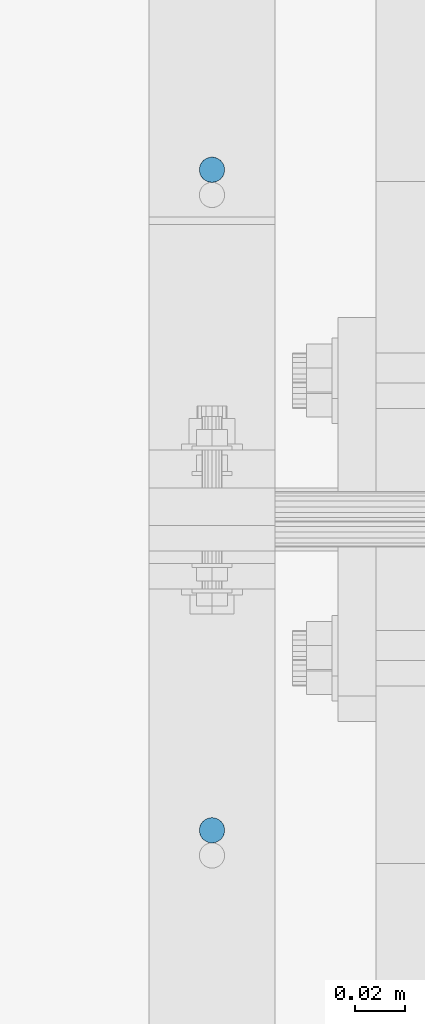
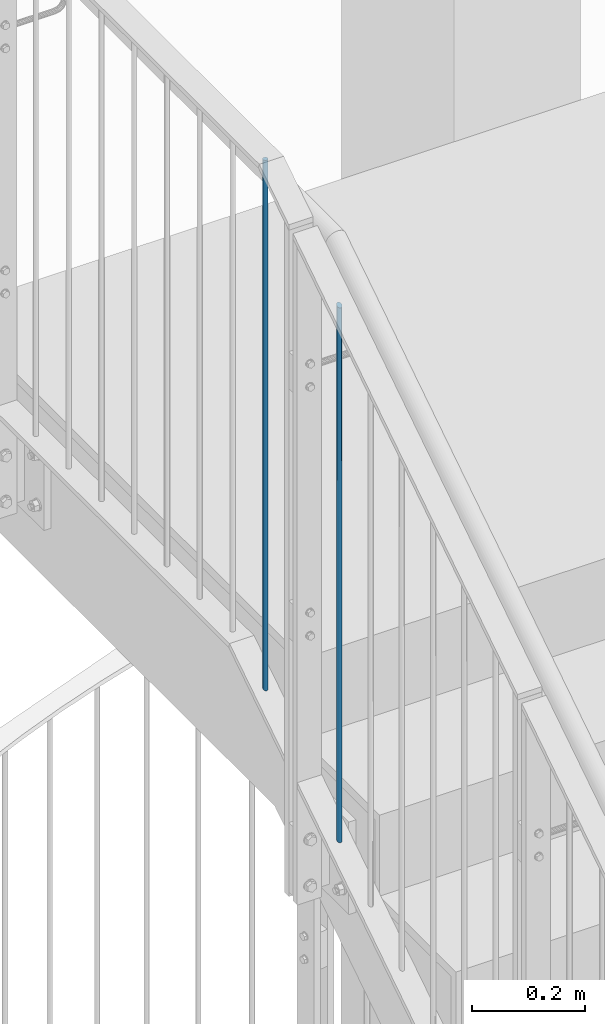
# One storey, part 19 of 296: 2 columns.
"""IFC2X3 building model written with IfcOpenShell, lengths in millimetres."""

import ifcopenshell
import ifcopenshell.guid

model = None  # the IFC model being written
_history = None  # IfcOwnerHistory: only IFC2X3 demands one
_inside = {}  # id of a spatial element -> (the spatial element, [elements in it])
_under = {}  # id of a project, library or spatial element -> (it, [spatial elements below it])
_declared = {}  # id of a project -> (the project, [libraries it declares])
_typed = {}  # id of a type object -> (the type object, [elements of that type])
_made_of = {}  # id of a material, layer set ... -> (it, [elements and type objects made of it])


def new_model(schema):
    """Start an empty IFC model of exactly this schema.

    Asked for "IFC4X3", IfcOpenShell would pick the latest addendum, in which some entities
    have other attributes; the version numbers below select the first issue.
    IFC2X3 requires an IfcOwnerHistory on every rooted entity: one is made here for all.
    """
    global model, _history
    if schema == "IFC4X3":
        model = ifcopenshell.file(schema_version=(4, 3, 0, 0))
    else:
        model = ifcopenshell.file(schema=schema)
    _inside.clear()
    _under.clear()
    _declared.clear()
    _typed.clear()
    _made_of.clear()
    _history = None
    if model.schema == "IFC2X3":
        org = make("IfcOrganization", Name="unknown")
        user = make(
            "IfcPersonAndOrganization",
            ThePerson=make("IfcPerson", FamilyName="unknown"),
            TheOrganization=org,
        )
        app = make(
            "IfcApplication",
            ApplicationDeveloper=org,
            Version="unknown",
            ApplicationFullName="unknown",
            ApplicationIdentifier="unknown",
        )
        _history = make(
            "IfcOwnerHistory",
            OwningUser=user,
            OwningApplication=app,
            ChangeAction="ADDED",
            CreationDate=0,
        )
    return model


def make(cls, **values):
    """One entity of the class cls with the attributes given. An attribute that is None is left unset."""
    return model.create_entity(
        cls, **{name: value for name, value in values.items() if value is not None}
    )


def entity(cls, *values):
    """Any entity or typed value of the class cls, its attributes in the order of the schema. None: left unset."""
    e = model.create_entity(cls)
    for i, value in enumerate(values):
        if value is not None:
            e[i] = value
    return e


def rooted(cls, **values):
    """An entity with a GlobalId (a new one), such as an element, a storey or a relation."""
    return make(cls, GlobalId=ifcopenshell.guid.new(), OwnerHistory=_history, **values)


def si_unit(unit_type, name, prefix=None):
    """IfcSIUnit, for example si_unit("LENGTHUNIT", "METRE", prefix="MILLI")."""
    return make("IfcSIUnit", UnitType=unit_type, Prefix=prefix, Name=name)


def converted_unit(unit_type, name, factor, base, dimensions=None, offset=None):
    """IfcConversionBasedUnit, such as the inch: factor (a typed value) times the base unit."""
    return make(
        "IfcConversionBasedUnit"
        if offset is None
        else "IfcConversionBasedUnitWithOffset",
        ConversionOffset=offset,
        Dimensions=None
        if dimensions is None
        else entity("IfcDimensionalExponents", *dimensions),
        UnitType=unit_type,
        Name=name,
        ConversionFactor=make(
            "IfcMeasureWithUnit", ValueComponent=factor, UnitComponent=base
        ),
    )


def assignment(units):
    """IfcUnitAssignment: the units of a project."""
    return None if units is None else make("IfcUnitAssignment", Units=units)


def point(xyz):
    """IfcCartesianPoint."""
    return None if xyz is None else make("IfcCartesianPoint", Coordinates=xyz)


def direction(xyz):
    """IfcDirection."""
    return None if xyz is None else make("IfcDirection", DirectionRatios=xyz)


def frame(location, z_axis=None, x_axis=None):
    """IfcAxis2Placement3D, a coordinate frame: its origin and axes. An axis left out is left unset."""
    return make(
        "IfcAxis2Placement3D",
        Location=point(location),
        Axis=direction(z_axis),
        RefDirection=direction(x_axis),
    )


def frame_2d(location, x_axis=None):
    """IfcAxis2Placement2D, a coordinate frame in the plane: its origin and x axis."""
    return make(
        "IfcAxis2Placement2D", Location=point(location), RefDirection=direction(x_axis)
    )


def origin():
    """The frame at (0, 0, 0) with its axes left unset."""
    return frame((0.0, 0.0, 0.0))


def origin_with_axes():
    """The frame at (0, 0, 0) with the z axis (0, 0, 1) and the x axis (1, 0, 0) written out."""
    return frame((0.0, 0.0, 0.0), z_axis=(0.0, 0.0, 1.0), x_axis=(1.0, 0.0, 0.0))


def origin_2d():
    """The frame at (0, 0) in the plane with its x axis left unset."""
    return frame_2d((0.0, 0.0))


def place(relative_to, where):
    """IfcLocalPlacement: puts the frame where relative to a parent placement (None: the world)."""
    return make(
        "IfcLocalPlacement", PlacementRelTo=relative_to, RelativePlacement=where
    )


def context(
    kind, dimensions, precision=None, world=None, true_north=None, identifier=None
):
    """IfcGeometricRepresentationContext, for example the 3D "Model" context."""
    return make(
        "IfcGeometricRepresentationContext",
        ContextIdentifier=identifier,
        ContextType=kind,
        CoordinateSpaceDimension=dimensions,
        Precision=precision,
        WorldCoordinateSystem=world,
        TrueNorth=true_north,
    )


def project(units=None, contexts=None):
    """IfcProject with its units and contexts."""
    return rooted(
        "IfcProject",
        Name="project",
        RepresentationContexts=contexts,
        UnitsInContext=assignment(units),
    )


def spatial(cls, under=None, at=None, **own):
    """A site, building, storey or space (cls), placed at a placement, below another one or the project."""
    s = rooted(cls, ObjectPlacement=at, **own)
    if under is not None:
        _under.setdefault(under.id(), (under, []))[1].append(s)
    return s


def profile(cls, at=None, kind="AREA", **sizes):
    """A parametric profile (cls). Its sizes go by their IFC names, for example OverallWidth=200.0."""
    return make(cls, ProfileType=kind, Position=at, **sizes)


def circle(**sizes):
    """IfcCircleProfileDef."""
    return profile("IfcCircleProfileDef", **sizes)


def extrude(swept, where, along, depth):
    """IfcExtrudedAreaSolid: the profile swept, set in the frame where, extruded along a direction by depth."""
    return make(
        "IfcExtrudedAreaSolid",
        SweptArea=swept,
        Position=where,
        ExtrudedDirection=direction(along),
        Depth=depth,
    )


def clip(a, b, op="DIFFERENCE"):
    """IfcBooleanClippingResult: the solid a cut by the half space b."""
    return make(
        "IfcBooleanClippingResult", Operator=op, FirstOperand=a, SecondOperand=b
    )


def halfspace(plane, agree):
    """IfcHalfSpaceSolid: all space on one side of the plane z = 0 of the frame plane."""
    return make(
        "IfcHalfSpaceSolid",
        BaseSurface=make("IfcPlane", Position=plane),
        AgreementFlag=agree,
    )


def shape(context_of_items, identifier, shape_type, items):
    """IfcShapeRepresentation: the items that make up one representation, for example the "Body"."""
    return make(
        "IfcShapeRepresentation",
        ContextOfItems=context_of_items,
        RepresentationIdentifier=identifier,
        RepresentationType=shape_type,
        Items=items,
    )


def material(Name=None, Category=None):
    """IfcMaterial."""
    return make("IfcMaterial", Name=Name, Category=Category)


def made_of(thing, what):
    """Note that an element or type object is made of a material, layer set ...; save() writes the relation."""
    if what is not None:
        _made_of.setdefault(what.id(), (what, []))[1].append(thing)
    return thing


def element(
    cls,
    number,
    at=None,
    inside=None,
    cuts=None,
    type_object=None,
    material=None,
    context=None,
    identifier="Body",
    shape_type=None,
    held_by="IfcProductDefinitionShape",
    body=None,
    shapes=None,
    **own,
):
    """One element of the class cls, such as IfcWall. Its Tag is "e" and its number.

    at: its placement. inside: the storey or other place that contains it. cuts: it is an
    opening in that element (IfcRelVoidsElement). A single representation is given by context,
    identifier, shape_type and body (its items); several are given by shapes. held_by: the class
    of the entity that holds the representations. save() writes the other relations.
    """
    e = rooted(cls, Tag="e%d" % number, ObjectPlacement=at, **own)
    if body is not None:
        shapes = [shape(context, identifier, shape_type, body)]
    if shapes is not None:
        e.Representation = make(held_by, Representations=shapes)
    if inside is not None:
        _inside.setdefault(inside.id(), (inside, []))[1].append(e)
    if cuts is not None:
        rooted(
            "IfcRelVoidsElement", RelatingBuildingElement=cuts, RelatedOpeningElement=e
        )
    if type_object is not None:
        _typed.setdefault(type_object.id(), (type_object, []))[1].append(e)
    return made_of(e, material)


def aggregate(whole, parts):
    """IfcRelAggregates: a whole, such as a stair, and the parts it consists of."""
    return rooted("IfcRelAggregates", RelatingObject=whole, RelatedObjects=parts)


def save(model, path):
    """Write the relations noted so far, then the file.

    IfcRelAggregates (storeys below a building ...), IfcRelContainedInSpatialStructure (elements
    in a storey), IfcRelDefinesByType, IfcRelAssociatesMaterial and IfcRelDeclares: one each for
    every whole, place, type object, material and project.
    """
    for whole, parts in _under.values():
        aggregate(whole, parts)
    for where, things in _inside.values():
        rooted(
            "IfcRelContainedInSpatialStructure",
            RelatedElements=things,
            RelatingStructure=where,
        )
    for kind, things in _typed.values():
        rooted("IfcRelDefinesByType", RelatedObjects=things, RelatingType=kind)
    for what, things in _made_of.values():
        rooted("IfcRelAssociatesMaterial", RelatedObjects=things, RelatingMaterial=what)
    for by, libraries in _declared.values():
        rooted("IfcRelDeclares", RelatingContext=by, RelatedDefinitions=libraries)
    model.write(path)


model = new_model("IFC2X3")

# Units and contexts
model_context = context("Model", 3, precision=1e-09, world=origin_with_axes())
ifc_project = project(units=[si_unit("LENGTHUNIT", "METRE", prefix="MILLI"), si_unit("AREAUNIT", "SQUARE_METRE"), si_unit("VOLUMEUNIT", "CUBIC_METRE"), converted_unit("PLANEANGLEUNIT", "DEGREE", entity("IfcPlaneAngleMeasure", 0.01745329), si_unit("PLANEANGLEUNIT", "RADIAN"), dimensions=[0, 0, 0, 0, 0, 0, 0])], contexts=[model_context])

# Site, building, storey
site_placement = place(None, origin_with_axes())
site = spatial("IfcSite", under=ifc_project, at=site_placement, Name="TZD-S?d | Treppenhausgel?nder", CompositionType="ELEMENT")
building_placement = place(site_placement, origin_with_axes())
building = spatial("IfcBuilding", under=site, at=building_placement, Name="Struktur 1", CompositionType="ELEMENT")
storey_placement = place(building_placement, origin_with_axes())
storey = spatial("IfcBuildingStorey", under=building, at=storey_placement, Name="Default Storey", CompositionType="ELEMENT", Elevation=0.0)

# Columns
ifc_material = material(Name="S235JR")
column_1_placement = place(None, frame((-45.0, -1688.2142857, 11487.006170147), z_axis=(0.0, 0.0, 1.0), x_axis=(0.0, 1.0, 0.0)))
element("IfcColumn", 1, at=column_1_placement, inside=storey, material=ifc_material, Name="-", ObjectType="-", context=model_context, shape_type="Clipping", body=[
    clip(clip(extrude(circle(Radius=5.0, at=origin_2d()), origin(), (0.0, 0.0, 1.0), 1184.934501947), halfspace(frame((-4584.914639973, -45.0, -1797.915359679), z_axis=(0.543478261, 0.0, -0.839423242), x_axis=(0.0, 1.0, 0.0)), True)), halfspace(frame((-4057.459517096, -45.0, -2612.590244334), z_axis=(-0.543478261, 0.0, 0.839423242), x_axis=(0.0, -1.0, 0.0)), True)),
])
column_2_placement = place(None, frame((-45.0, -1426.3888888, 11656.523052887), z_axis=(0.0, 0.0, 1.0), x_axis=(0.0, 1.0, 0.0)))
element("IfcColumn", 2, at=column_2_placement, inside=storey, material=ifc_material, Name="-", ObjectType="-", context=model_context, shape_type="Clipping", body=[
    clip(extrude(circle(Radius=5.0, at=origin_2d()), origin(), (0.0, 0.0, 1.0), 1158.476947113), halfspace(frame((-4319.284913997, -45.0, -2782.107127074), z_axis=(-0.543478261, 0.0, 0.839423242), x_axis=(0.0, -1.0, 0.0)), True)),
])

save(model, "model.ifc")
